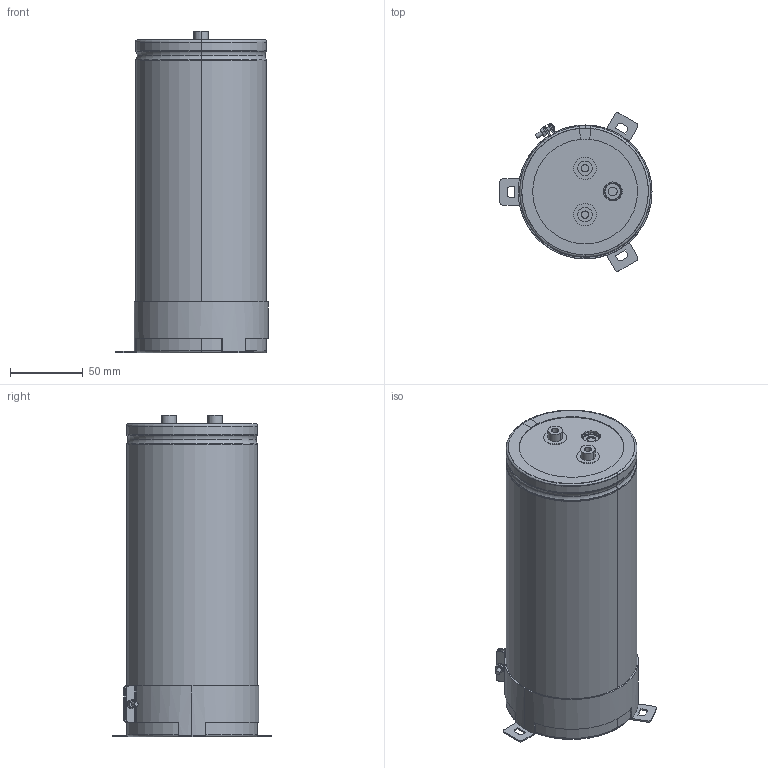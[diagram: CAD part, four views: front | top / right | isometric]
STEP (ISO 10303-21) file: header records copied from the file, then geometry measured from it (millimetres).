
FILE_DESCRIPTION(('STEP AP214'),'1');
FILE_NAME('90x215_Screw.stp','2022-03-14T08:44:46',(' '),(' '),'Spatial InterOp 3D',' ',' ');
FILE_SCHEMA(('AUTOMOTIVE_DESIGN { 1 0 10303 214 1 1 1 1 }'));
Length unit declared in the file: metre
Products named in the file (10): 90x215_Screw; Component1; Component2; Component3; Component4; Component5; Component6; Component7; Component8; Component9
Assembly tree (9 placements, depth 2):
  90x215_Screw
    Component1
    Component2
    Component3
    Component4
    Component5
    Component6
    Component7
    Component8
    Component9
Bounding box: 104.5 x 108.86 x 221 mm (x, y, z)
Volume: 1370331.2 mm3; surface area: 221508.3 mm2
Topology: 9 solids, 9 shells, 352 faces, 873 edges, 551 vertices
Faces by surface type: plane 112, cylinder 110, torus 90, cone 38, sphere 2
Entity records: 11474 total; most frequent: DIRECTION 2126, CARTESIAN_POINT 1918, ORIENTED_EDGE 1746, AXIS2_PLACEMENT_3D 919, EDGE_CURVE 873, VERTEX_POINT 551, CIRCLE 511, EDGE_LOOP 380
